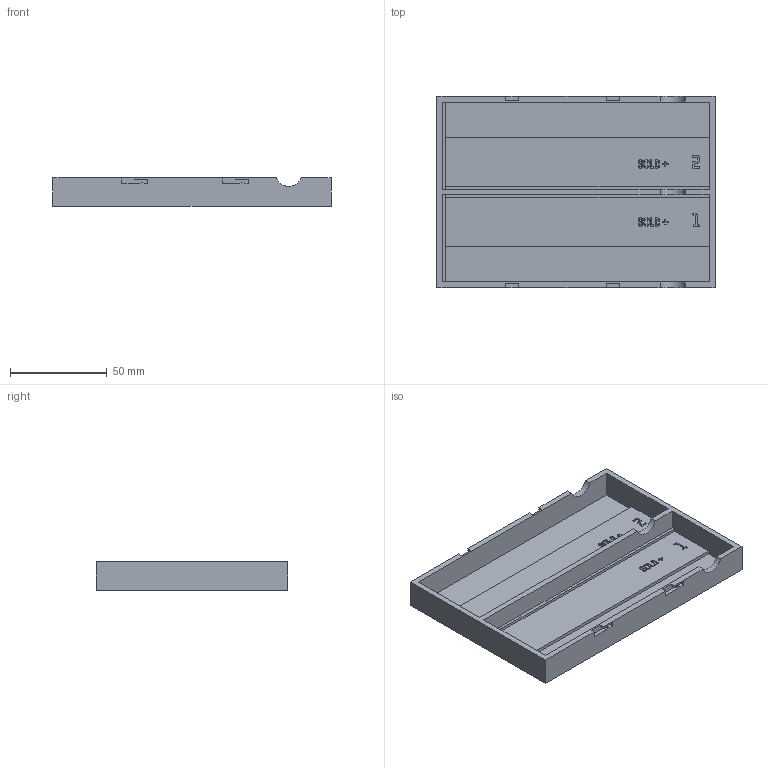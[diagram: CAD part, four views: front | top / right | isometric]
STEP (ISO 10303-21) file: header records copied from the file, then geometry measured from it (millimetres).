
FILE_DESCRIPTION(('Open CASCADE Model'),'2;1');
FILE_NAME('Open CASCADE Shape Model','2026-11-03T17:32:32',('Author'),( 'Open CASCADE'),'Open CASCADE STEP processor 8.0','build123d', 'Unknown');
FILE_SCHEMA(('AUTOMOTIVE_DESIGN { 1 0 10303 214 1 1 1 1 }'));
Products named in the file (1): COMPOUND
Bounding box: 143.85 x 99 x 14.8 mm (x, y, z)
Volume: 52863.5 mm3; surface area: 45744 mm2
Topology: 1 solids, 1 shells, 1368 faces, 4050 edges, 2700 vertices
Faces by surface type: plane 1365, cylinder 3
Entity records: 94826 total; most frequent: CARTESIAN_POINT 18847, DIRECTION 12296, LINE 9546, VECTOR 9546, ORIENTED_EDGE 8100, PCURVE 8100, DEFINITIONAL_REPRESENTATION 8100, EDGE_CURVE 4050
